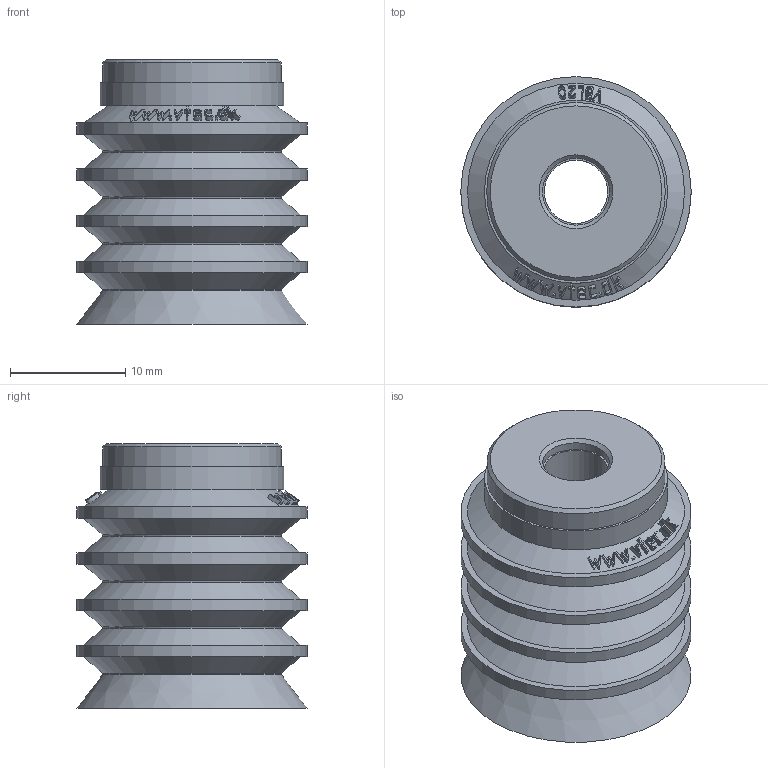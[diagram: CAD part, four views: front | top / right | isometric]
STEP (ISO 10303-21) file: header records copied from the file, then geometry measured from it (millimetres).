
FILE_DESCRIPTION( ( 'STEP AP203' ), '1' );
FILE_NAME( 'C:/撲啗紫賊-02/3D-蘋驍煎斜/Vacuum Pad/VBL series/VBL20.stp', '2006-04-24T11:47:47', ( ' ' ), ( ' ' ), 'XStep 1.0', ' ', ' ' );
FILE_SCHEMA( ( 'CONFIG_CONTROL_DESIGN) ( )' ) );
Length unit declared in the file: metre
Products named in the file (1): 1
Bounding box: 20 x 20 x 23 mm (x, y, z)
Volume: 1649.3 mm3; surface area: 3834.5 mm2
Topology: 1 solids, 1 shells, 200 faces, 474 edges, 310 vertices
Faces by surface type: bspline 131, cone 41, plane 15, cylinder 9, torus 4
Full cylindrical faces by diameter (mm): 5.5 x1, 5.8 x1, 6.5 x1, 15.5 x1, 15.9 x1, 20 x4
Entity records: 9431 total; most frequent: CARTESIAN_POINT 5803, ORIENTED_EDGE 878, EDGE_CURVE 439, DIRECTION 345, VERTEX_POINT 310, B_SPLINE_CURVE_WITH_KNOTS 282, EDGE_LOOP 271, FACE_OUTER_BOUND 215
